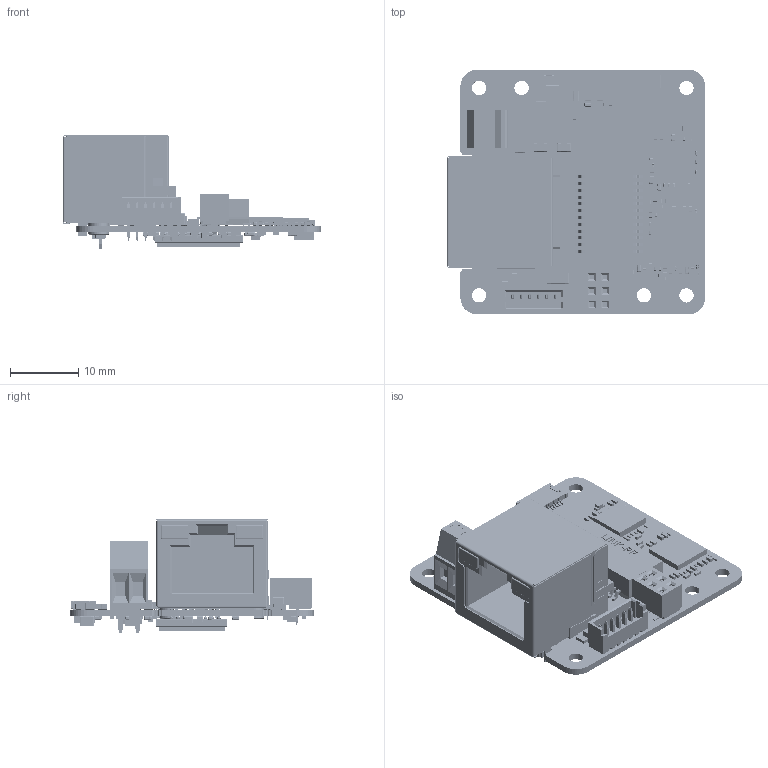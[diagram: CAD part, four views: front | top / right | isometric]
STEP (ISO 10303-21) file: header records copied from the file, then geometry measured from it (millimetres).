
FILE_DESCRIPTION(/* description */ ('ZB Platinen-Kamera'),/* implementation_level */ '2;1');
FILE_NAME(/* name */ 'KSM_306-23-13-00-00_ZB PlatinenKam_GigE-4SB_AR2020.stp',/* time_stamp */ '2025-06-06T00:53:03+02:00',/* author */ ('khw'),/* organization */ ('TIS/ Germany'),/* preprocessor_version */ 'ST-DEVELOPER v20',/* originating_system */ 'Autodesk Inventor 2025',/* authorisation */ '520025 mm^3');
FILE_SCHEMA (('AUTOMOTIVE_DESIGN { 1 0 10303 214 3 1 1 }'));
Products named in the file (2): 306-23-13-00-00_ZB PlatinenKam_GigE-4SB_AR2020; Sensorboard_4G-JB0_0100_GigE4-SB_AR2020_03-06-25
Assembly tree (1 placements, depth 2):
  306-23-13-00-00_ZB PlatinenKam_GigE-4SB_AR2020
    Sensorboard_4G-JB0_0100_GigE4-SB_AR2020_03-06-25
Bounding box: 37.99 x 36.01 x 16.65 mm (x, y, z)
Volume: 4795.5 mm3; surface area: 7691.4 mm2
Topology: 8 solids, 8 shells, 10234 faces, 24675 edges, 13528 vertices
Faces by surface type: plane 4267, cylinder 3981, sphere 1022, torus 928, bspline 34, cone 2
Full cylindrical faces by diameter (mm): 0.3 x1, 0.5 x6, 0.739 x1, 1.05 x2, 1.2 x2, 2.032 x2, 2.1 x6
Entity records: 294988 total; most frequent: DIRECTION 52143, CARTESIAN_POINT 48506, ORIENTED_EDGE 47150, EDGE_CURVE 23575, AXIS2_PLACEMENT_3D 18421, LINE 15301, VECTOR 15301, VERTEX_POINT 13528
